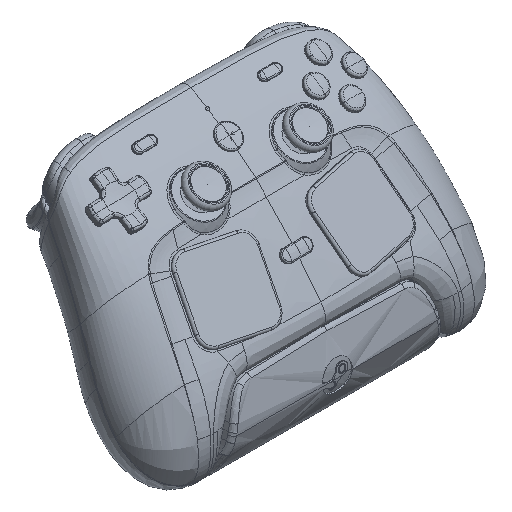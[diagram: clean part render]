
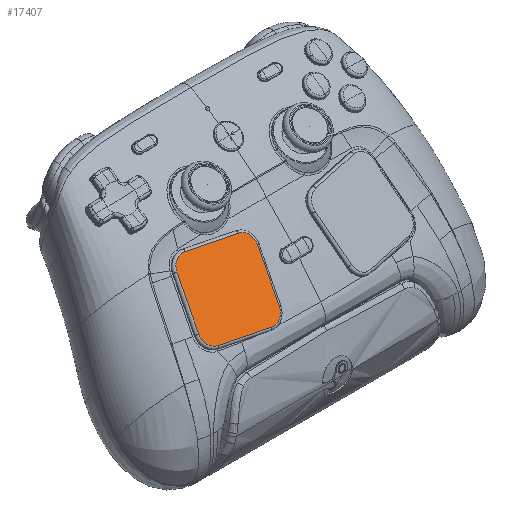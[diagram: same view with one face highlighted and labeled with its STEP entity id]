
A CAD part, isometric view. The second image highlights one B-rep face of the part: STEP entity #17407.
In plain terms, the highlighted planar face has unit normal (-0.079, -0.764, 0.641) as drawn and (-0.078, 0.963, 0.258) by its records, which use the part's own axes.
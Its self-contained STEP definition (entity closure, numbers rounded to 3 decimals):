
#3211=FACE_OUTER_BOUND('',#4334,.T.);
#4334=EDGE_LOOP('',(#14018,#14019,#14020,#14021,#14022,#14023,#14024,#14025));
#5189=CIRCLE('',#18534,5.437);
#5194=CIRCLE('',#18542,5.437);
#5197=CIRCLE('',#18547,5.437);
#5247=CIRCLE('',#18622,5.437);
#5759=LINE('',#65558,#6376);
#5760=LINE('',#65562,#6377);
#5761=LINE('',#65570,#6378);
#5763=LINE('',#65580,#6380);
#6376=VECTOR('',#20441,21.);
#6377=VECTOR('',#20446,21.);
#6378=VECTOR('',#20457,21.);
#6380=VECTOR('',#20471,21.);
#7422=VERTEX_POINT('',#65551);
#7423=VERTEX_POINT('',#65552);
#7424=VERTEX_POINT('',#65557);
#7425=VERTEX_POINT('',#65561);
#7426=VERTEX_POINT('',#65565);
#7427=VERTEX_POINT('',#65569);
#7428=VERTEX_POINT('',#65573);
#7429=VERTEX_POINT('',#65579);
#9547=EDGE_CURVE('',#7422,#7423,#5189,.T.);
#9550=EDGE_CURVE('',#7423,#7424,#5759,.T.);
#9552=EDGE_CURVE('',#7425,#7422,#5760,.T.);
#9554=EDGE_CURVE('',#7426,#7425,#5194,.T.);
#9556=EDGE_CURVE('',#7427,#7426,#5761,.T.);
#9558=EDGE_CURVE('',#7428,#7427,#5197,.T.);
#9561=EDGE_CURVE('',#7429,#7428,#5763,.T.);
#9880=EDGE_CURVE('',#7424,#7429,#5247,.T.);
#14018=ORIENTED_EDGE('',*,*,#9547,.T.);
#14019=ORIENTED_EDGE('',*,*,#9550,.T.);
#14020=ORIENTED_EDGE('',*,*,#9880,.T.);
#14021=ORIENTED_EDGE('',*,*,#9561,.T.);
#14022=ORIENTED_EDGE('',*,*,#9558,.T.);
#14023=ORIENTED_EDGE('',*,*,#9556,.T.);
#14024=ORIENTED_EDGE('',*,*,#9554,.T.);
#14025=ORIENTED_EDGE('',*,*,#9552,.T.);
#16781=PLANE('',#18646);
#17407=ADVANCED_FACE('',(#3211),#16781,.T.);
#18534=AXIS2_PLACEMENT_3D('',#65553,#20433,#20434);
#18542=AXIS2_PLACEMENT_3D('',#65566,#20451,#20452);
#18547=AXIS2_PLACEMENT_3D('',#65574,#20462,#20463);
#18622=AXIS2_PLACEMENT_3D('',#89586,#20658,#20659);
#18646=AXIS2_PLACEMENT_3D('',#90974,#20712,#20713);
#20433=DIRECTION('center_axis',(-0.078,0.963,0.258));
#20434=DIRECTION('ref_axis',(0.156,0.267,-0.951));
#20441=DIRECTION('',(-0.156,-0.267,0.951));
#20446=DIRECTION('',(-0.985,-0.034,-0.171));
#20451=DIRECTION('center_axis',(-0.078,0.963,0.258));
#20452=DIRECTION('ref_axis',(0.985,0.034,0.171));
#20457=DIRECTION('',(0.156,0.267,-0.951));
#20462=DIRECTION('center_axis',(-0.078,0.963,0.258));
#20463=DIRECTION('ref_axis',(-0.156,-0.267,0.951));
#20471=DIRECTION('',(0.985,0.034,0.171));
#20658=DIRECTION('center_axis',(-0.078,0.963,0.258));
#20659=DIRECTION('ref_axis',(-0.985,-0.034,-0.171));
#20712=DIRECTION('center_axis',(-0.078,0.963,0.258));
#20713=DIRECTION('ref_axis',(0.985,0.034,0.171));
#65551=CARTESIAN_POINT('',(-38.236,-3.099,44.787));
#65552=CARTESIAN_POINT('',(-44.437,-4.74,49.026));
#65553=CARTESIAN_POINT('Origin',(-39.084,-4.553,49.957));
#65557=CARTESIAN_POINT('',(-47.712,-10.357,68.994));
#65558=CARTESIAN_POINT('',(-44.437,-4.74,49.026));
#65561=CARTESIAN_POINT('',(-17.558,-2.377,48.381));
#65562=CARTESIAN_POINT('',(-17.558,-2.377,48.381));
#65565=CARTESIAN_POINT('',(-13.053,-3.645,54.482));
#65566=CARTESIAN_POINT('Origin',(-18.406,-3.832,53.551));
#65569=CARTESIAN_POINT('',(-16.328,-9.262,74.45));
#65570=CARTESIAN_POINT('',(-16.328,-9.262,74.45));
#65573=CARTESIAN_POINT('',(-22.529,-10.903,78.689));
#65574=CARTESIAN_POINT('Origin',(-21.681,-9.449,73.519));
#65579=CARTESIAN_POINT('',(-43.206,-11.625,75.095));
#65580=CARTESIAN_POINT('',(-43.206,-11.625,75.095));
#89586=CARTESIAN_POINT('Origin',(-42.359,-10.171,69.925));
#90974=CARTESIAN_POINT('Origin',(-30.382,-7.001,61.738));
